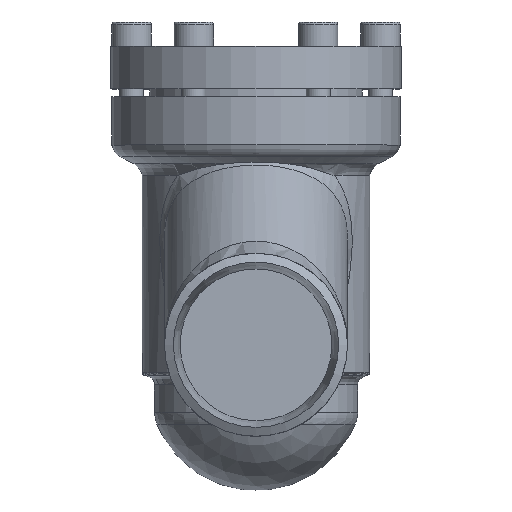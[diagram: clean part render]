
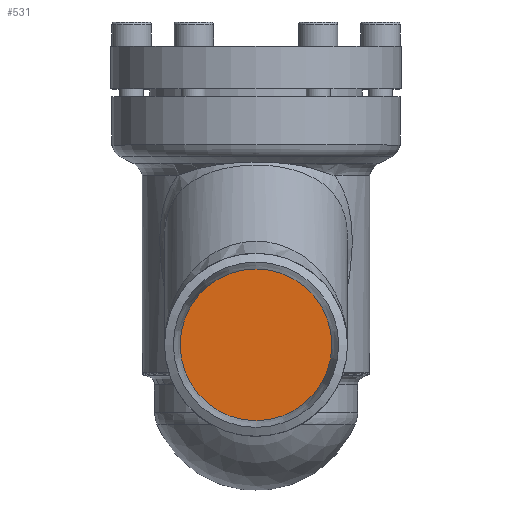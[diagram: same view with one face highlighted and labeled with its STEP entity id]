
A CAD part, top view. The second image highlights one B-rep face of the part: STEP entity #531.
In plain terms, the highlighted planar face has unit normal (0, 0, 1).
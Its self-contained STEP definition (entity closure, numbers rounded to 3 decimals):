
#500=CARTESIAN_POINT('',(0.0,66.0,102.24));
#501=VERTEX_POINT('',#500);
#502=CARTESIAN_POINT('',(0.0,41.,102.24));
#503=DIRECTION('',(0.0,0.0,1.0));
#504=DIRECTION('',(0.0,1.0,0.0));
#505=AXIS2_PLACEMENT_3D('',#502,#503,#504);
#506=CIRCLE('',#505,25.0);
#507=EDGE_CURVE('',#501,#501,#506,.T.);
#523=CARTESIAN_POINT('',(0.0,53.5,102.24));
#524=DIRECTION('',(0.0,0.0,1.0));
#525=DIRECTION('',(1.0,0.0,0.0));
#526=AXIS2_PLACEMENT_3D('',#523,#524,#525);
#527=PLANE('',#526);
#528=ORIENTED_EDGE('',*,*,#507,.T.);
#529=EDGE_LOOP('',(#528));
#530=FACE_OUTER_BOUND('',#529,.T.);
#531=ADVANCED_FACE('',(#530),#527,.T.);
